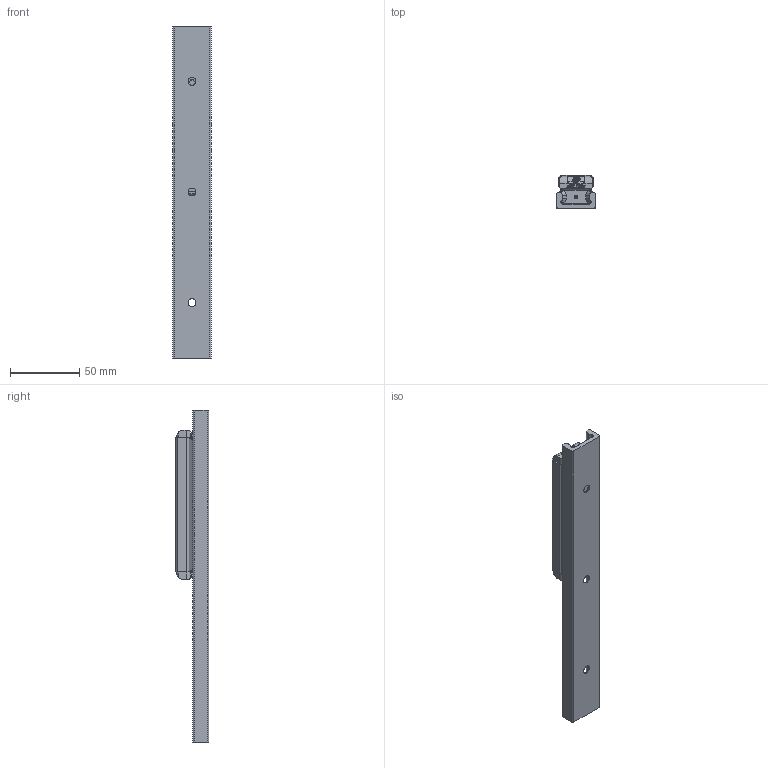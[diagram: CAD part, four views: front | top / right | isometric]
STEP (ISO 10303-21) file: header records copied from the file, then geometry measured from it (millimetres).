
FILE_DESCRIPTION( ( 'STEP AP214' ), '1' );
FILE_NAME( 'p:/temp/worker_26/temp/exporttempdir_4688_52_0356B/format_1/TGV-00240_1_RV28G-3.stp', '2020-11-20T15:14:11', ( 'License CC BY-ND 4.0' ), ( 'CADENAS' ), ' ', 'PARTsolutions', ' ' );
FILE_SCHEMA( ( 'AUTOMOTIVE_DESIGN { 1 0 10303 214 1 1 1 1 }' ) );
Length unit declared in the file: millimetre
Products named in the file (6): TGV-00240/1/RV28G-3; _TGV28-0240-(3-1); _RV28G-3-slider; _RGNV28R; _RGAV28R; _WR28G-01
Assembly tree (7 placements, depth 2):
  TGV-00240/1/RV28G-3
    _TGV28-0240-(3-1)
    _RV28G-3-slider
    _RGNV28R  x2
    _RGAV28R
    _WR28G-01  x2
Bounding box: 28 x 24 x 240 mm (x, y, z)
Volume: 71149.4 mm3; surface area: 43057.2 mm2
Topology: 7 solids, 7 shells, 1018 faces, 2660 edges, 1738 vertices
Faces by surface type: plane 657, cylinder 283, cone 43, bspline 26, torus 9
Full cylindrical faces by diameter (mm): 1.27 x4, 2 x2, 2.5 x6, 4 x4, 4.134 x4, 4.2 x3, 5 x3, 5.5 x3, 5.75 x3, 7 x5, 7.5 x1, 8 x6, 10.8 x3, 17 x3, 20.75 x6
Entity records: 24261 total; most frequent: CARTESIAN_POINT 3899, DIRECTION 3230, ORIENTED_EDGE 3012, EDGE_CURVE 1506, AXIS2_PLACEMENT_3D 1220, VERTEX_POINT 1038, EDGE_LOOP 809, LINE 790
